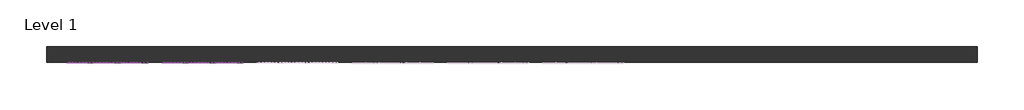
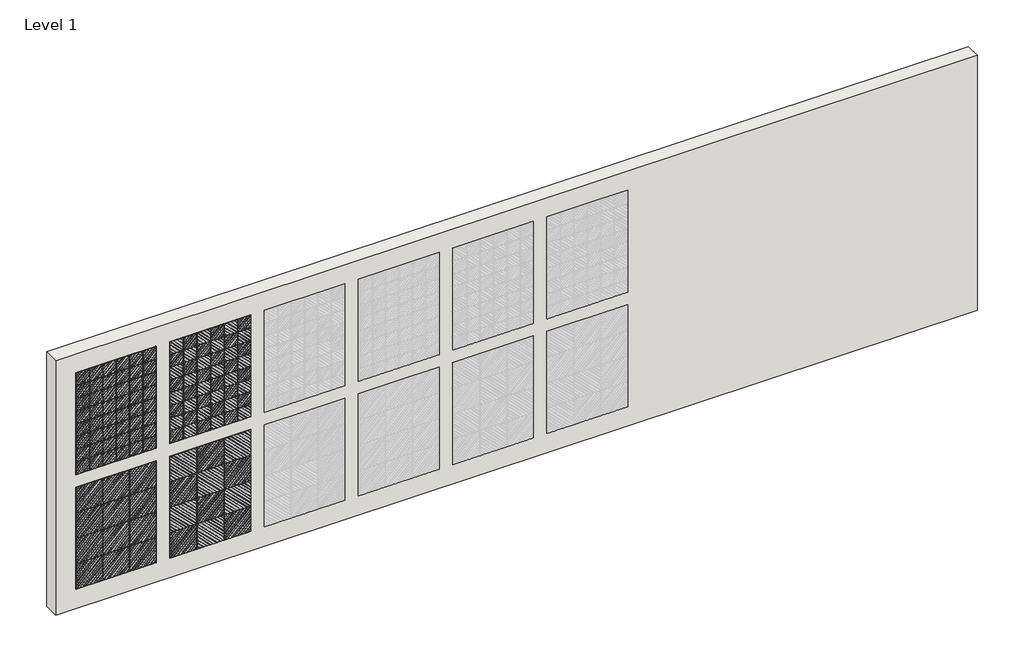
# One storey, part 1 of 3: 120 proxies, 1 wall.
"""IFC4 building model written with IfcOpenShell, lengths in millimetres."""

from ifc_helpers import new_model, si_unit, origin, origin_with_axes, place, context, project, spatial, polyline, outline, extrude, transform, mapped, element, save
from components import maz_1_9_b5213464, maz_1_9_928b4c34, maz_2_9_f5754bbc, maz_2_9_c834c103

model = new_model("IFC4")

# Units and contexts
model_context = context("Model", 3, world=origin())
ifc_project = project(units=[si_unit("LENGTHUNIT", "METRE", prefix="MILLI")], contexts=[model_context])

# Site, building, storey
site = spatial("IfcSite", under=ifc_project)
building = spatial("IfcBuilding", under=site)
storey = spatial("IfcBuildingStorey", under=building, Name="Level 1", Elevation=0.0)

# Proxies
placement = place(None, origin())
maz_1_9_shape = maz_1_9_b5213464(model_context)
element("IfcBuildingElementProxy", 1, Name="Turf_Wall Tile_Maze : MAZ-1-9", ObjectType="Turf_Wall Tile_Maze : MAZ-1-9", at=placement, inside=storey, context=model_context, shape_type="MappedRepresentation", body=[
    mapped(maz_1_9_shape, transform((-799.2969002, 1379.3506904, 3367.9326506), x_axis=(1.0, 0.0, 0.0), y_axis=(0.0, 0.0, 1.0), z_axis=(0.0, -1.0, 0.0))),
])
element("IfcBuildingElementProxy", 2, Name="Turf_Wall Tile_Maze : MAZ-1-9", ObjectType="Turf_Wall Tile_Maze : MAZ-1-9", at=placement, inside=storey, context=model_context, shape_type="MappedRepresentation", body=[
    mapped(maz_1_9_shape, transform((-494.4969002, 1379.3506904, 3367.9326506), x_axis=(1.0, 0.0, 0.0), y_axis=(0.0, 0.0, 1.0), z_axis=(0.0, -1.0, 0.0))),
])
element("IfcBuildingElementProxy", 3, Name="Turf_Wall Tile_Maze : MAZ-1-9", ObjectType="Turf_Wall Tile_Maze : MAZ-1-9", at=placement, inside=storey, context=model_context, shape_type="MappedRepresentation", body=[
    mapped(maz_1_9_shape, transform((419.9030998, 1379.3506904, 3367.9326506), x_axis=(1.0, 0.0, 0.0), y_axis=(0.0, 0.0, 1.0), z_axis=(0.0, -1.0, 0.0))),
])
element("IfcBuildingElementProxy", 4, Name="Turf_Wall Tile_Maze : MAZ-1-9", ObjectType="Turf_Wall Tile_Maze : MAZ-1-9", at=placement, inside=storey, context=model_context, shape_type="MappedRepresentation", body=[
    mapped(maz_1_9_shape, transform((724.7030998, 1379.3506904, 3367.9326506), x_axis=(1.0, 0.0, 0.0), y_axis=(0.0, 0.0, 1.0), z_axis=(0.0, -1.0, 0.0))),
])
element("IfcBuildingElementProxy", 5, Name="Turf_Wall Tile_Maze : MAZ-1-9", ObjectType="Turf_Wall Tile_Maze : MAZ-1-9", at=placement, inside=storey, context=model_context, shape_type="MappedRepresentation", body=[
    mapped(maz_1_9_shape, transform((-189.6969002, 1379.3506904, 3367.9326506), x_axis=(1.0, 0.0, 0.0), y_axis=(0.0, 0.0, 1.0), z_axis=(0.0, -1.0, 0.0))),
])
element("IfcBuildingElementProxy", 6, Name="Turf_Wall Tile_Maze : MAZ-1-9", ObjectType="Turf_Wall Tile_Maze : MAZ-1-9", at=placement, inside=storey, context=model_context, shape_type="MappedRepresentation", body=[
    mapped(maz_1_9_shape, transform((115.1030998, 1379.3506904, 3367.9326506), x_axis=(1.0, 0.0, 0.0), y_axis=(0.0, 0.0, 1.0), z_axis=(0.0, -1.0, 0.0))),
])
element("IfcBuildingElementProxy", 7, Name="Turf_Wall Tile_Maze : MAZ-1-9", ObjectType="Turf_Wall Tile_Maze : MAZ-1-9", at=placement, inside=storey, context=model_context, shape_type="MappedRepresentation", body=[
    mapped(maz_1_9_shape, transform((-799.2969002, 1379.3506904, 3672.7326506), x_axis=(1.0, 0.0, 0.0), y_axis=(0.0, 0.0, 1.0), z_axis=(0.0, -1.0, 0.0))),
])
element("IfcBuildingElementProxy", 8, Name="Turf_Wall Tile_Maze : MAZ-1-9", ObjectType="Turf_Wall Tile_Maze : MAZ-1-9", at=placement, inside=storey, context=model_context, shape_type="MappedRepresentation", body=[
    mapped(maz_1_9_shape, transform((-494.4969002, 1379.3506904, 3672.7326506), x_axis=(1.0, 0.0, 0.0), y_axis=(0.0, 0.0, 1.0), z_axis=(0.0, -1.0, 0.0))),
])
element("IfcBuildingElementProxy", 9, Name="Turf_Wall Tile_Maze : MAZ-1-9", ObjectType="Turf_Wall Tile_Maze : MAZ-1-9", at=placement, inside=storey, context=model_context, shape_type="MappedRepresentation", body=[
    mapped(maz_1_9_shape, transform((419.9030998, 1379.3506904, 3672.7326506), x_axis=(1.0, 0.0, 0.0), y_axis=(0.0, 0.0, 1.0), z_axis=(0.0, -1.0, 0.0))),
])
element("IfcBuildingElementProxy", 10, Name="Turf_Wall Tile_Maze : MAZ-1-9", ObjectType="Turf_Wall Tile_Maze : MAZ-1-9", at=placement, inside=storey, context=model_context, shape_type="MappedRepresentation", body=[
    mapped(maz_1_9_shape, transform((724.7030998, 1379.3506904, 3672.7326506), x_axis=(1.0, 0.0, 0.0), y_axis=(0.0, 0.0, 1.0), z_axis=(0.0, -1.0, 0.0))),
])
element("IfcBuildingElementProxy", 11, Name="Turf_Wall Tile_Maze : MAZ-1-9", ObjectType="Turf_Wall Tile_Maze : MAZ-1-9", at=placement, inside=storey, context=model_context, shape_type="MappedRepresentation", body=[
    mapped(maz_1_9_shape, transform((-189.6969002, 1379.3506904, 3672.7326506), x_axis=(1.0, 0.0, 0.0), y_axis=(0.0, 0.0, 1.0), z_axis=(0.0, -1.0, 0.0))),
])
element("IfcBuildingElementProxy", 12, Name="Turf_Wall Tile_Maze : MAZ-1-9", ObjectType="Turf_Wall Tile_Maze : MAZ-1-9", at=placement, inside=storey, context=model_context, shape_type="MappedRepresentation", body=[
    mapped(maz_1_9_shape, transform((115.1030998, 1379.3506904, 3672.7326506), x_axis=(1.0, 0.0, 0.0), y_axis=(0.0, 0.0, 1.0), z_axis=(0.0, -1.0, 0.0))),
])
element("IfcBuildingElementProxy", 13, Name="Turf_Wall Tile_Maze : MAZ-1-9", ObjectType="Turf_Wall Tile_Maze : MAZ-1-9", at=placement, inside=storey, context=model_context, shape_type="MappedRepresentation", body=[
    mapped(maz_1_9_shape, transform((-799.2969002, 1379.3506904, 3977.5326506), x_axis=(1.0, 0.0, 0.0), y_axis=(0.0, 0.0, 1.0), z_axis=(0.0, -1.0, 0.0))),
])
element("IfcBuildingElementProxy", 14, Name="Turf_Wall Tile_Maze : MAZ-1-9", ObjectType="Turf_Wall Tile_Maze : MAZ-1-9", at=placement, inside=storey, context=model_context, shape_type="MappedRepresentation", body=[
    mapped(maz_1_9_shape, transform((-494.4969002, 1379.3506904, 3977.5326506), x_axis=(1.0, 0.0, 0.0), y_axis=(0.0, 0.0, 1.0), z_axis=(0.0, -1.0, 0.0))),
])
element("IfcBuildingElementProxy", 15, Name="Turf_Wall Tile_Maze : MAZ-1-9", ObjectType="Turf_Wall Tile_Maze : MAZ-1-9", at=placement, inside=storey, context=model_context, shape_type="MappedRepresentation", body=[
    mapped(maz_1_9_shape, transform((419.9030998, 1379.3506904, 3977.5326506), x_axis=(1.0, 0.0, 0.0), y_axis=(0.0, 0.0, 1.0), z_axis=(0.0, -1.0, 0.0))),
])
element("IfcBuildingElementProxy", 16, Name="Turf_Wall Tile_Maze : MAZ-1-9", ObjectType="Turf_Wall Tile_Maze : MAZ-1-9", at=placement, inside=storey, context=model_context, shape_type="MappedRepresentation", body=[
    mapped(maz_1_9_shape, transform((724.7030998, 1379.3506904, 3977.5326506), x_axis=(1.0, 0.0, 0.0), y_axis=(0.0, 0.0, 1.0), z_axis=(0.0, -1.0, 0.0))),
])
element("IfcBuildingElementProxy", 17, Name="Turf_Wall Tile_Maze : MAZ-1-9", ObjectType="Turf_Wall Tile_Maze : MAZ-1-9", at=placement, inside=storey, context=model_context, shape_type="MappedRepresentation", body=[
    mapped(maz_1_9_shape, transform((-189.6969002, 1379.3506904, 3977.5326506), x_axis=(1.0, 0.0, 0.0), y_axis=(0.0, 0.0, 1.0), z_axis=(0.0, -1.0, 0.0))),
])
element("IfcBuildingElementProxy", 18, Name="Turf_Wall Tile_Maze : MAZ-1-9", ObjectType="Turf_Wall Tile_Maze : MAZ-1-9", at=placement, inside=storey, context=model_context, shape_type="MappedRepresentation", body=[
    mapped(maz_1_9_shape, transform((115.1030998, 1379.3506904, 3977.5326506), x_axis=(1.0, 0.0, 0.0), y_axis=(0.0, 0.0, 1.0), z_axis=(0.0, -1.0, 0.0))),
])
element("IfcBuildingElementProxy", 19, Name="Turf_Wall Tile_Maze : MAZ-1-9", ObjectType="Turf_Wall Tile_Maze : MAZ-1-9", at=placement, inside=storey, context=model_context, shape_type="MappedRepresentation", body=[
    mapped(maz_1_9_shape, transform((-799.2969002, 1379.3506904, 4282.3326506), x_axis=(1.0, 0.0, 0.0), y_axis=(0.0, 0.0, 1.0), z_axis=(0.0, -1.0, 0.0))),
])
element("IfcBuildingElementProxy", 20, Name="Turf_Wall Tile_Maze : MAZ-1-9", ObjectType="Turf_Wall Tile_Maze : MAZ-1-9", at=placement, inside=storey, context=model_context, shape_type="MappedRepresentation", body=[
    mapped(maz_1_9_shape, transform((-494.4969002, 1379.3506904, 4282.3326506), x_axis=(1.0, 0.0, 0.0), y_axis=(0.0, 0.0, 1.0), z_axis=(0.0, -1.0, 0.0))),
])
element("IfcBuildingElementProxy", 21, Name="Turf_Wall Tile_Maze : MAZ-1-9", ObjectType="Turf_Wall Tile_Maze : MAZ-1-9", at=placement, inside=storey, context=model_context, shape_type="MappedRepresentation", body=[
    mapped(maz_1_9_shape, transform((419.9030998, 1379.3506904, 4282.3326506), x_axis=(1.0, 0.0, 0.0), y_axis=(0.0, 0.0, 1.0), z_axis=(0.0, -1.0, 0.0))),
])
element("IfcBuildingElementProxy", 22, Name="Turf_Wall Tile_Maze : MAZ-1-9", ObjectType="Turf_Wall Tile_Maze : MAZ-1-9", at=placement, inside=storey, context=model_context, shape_type="MappedRepresentation", body=[
    mapped(maz_1_9_shape, transform((724.7030998, 1379.3506904, 4282.3326506), x_axis=(1.0, 0.0, 0.0), y_axis=(0.0, 0.0, 1.0), z_axis=(0.0, -1.0, 0.0))),
])
element("IfcBuildingElementProxy", 23, Name="Turf_Wall Tile_Maze : MAZ-1-9", ObjectType="Turf_Wall Tile_Maze : MAZ-1-9", at=placement, inside=storey, context=model_context, shape_type="MappedRepresentation", body=[
    mapped(maz_1_9_shape, transform((-189.6969002, 1379.3506904, 4282.3326506), x_axis=(1.0, 0.0, 0.0), y_axis=(0.0, 0.0, 1.0), z_axis=(0.0, -1.0, 0.0))),
])
element("IfcBuildingElementProxy", 24, Name="Turf_Wall Tile_Maze : MAZ-1-9", ObjectType="Turf_Wall Tile_Maze : MAZ-1-9", at=placement, inside=storey, context=model_context, shape_type="MappedRepresentation", body=[
    mapped(maz_1_9_shape, transform((115.1030998, 1379.3506904, 4282.3326506), x_axis=(1.0, 0.0, 0.0), y_axis=(0.0, 0.0, 1.0), z_axis=(0.0, -1.0, 0.0))),
])
element("IfcBuildingElementProxy", 25, Name="Turf_Wall Tile_Maze : MAZ-1-9", ObjectType="Turf_Wall Tile_Maze : MAZ-1-9", at=placement, inside=storey, context=model_context, shape_type="MappedRepresentation", body=[
    mapped(maz_1_9_shape, transform((-799.2969002, 1379.3506904, 4587.1326506), x_axis=(1.0, 0.0, 0.0), y_axis=(0.0, 0.0, 1.0), z_axis=(0.0, -1.0, 0.0))),
])
element("IfcBuildingElementProxy", 26, Name="Turf_Wall Tile_Maze : MAZ-1-9", ObjectType="Turf_Wall Tile_Maze : MAZ-1-9", at=placement, inside=storey, context=model_context, shape_type="MappedRepresentation", body=[
    mapped(maz_1_9_shape, transform((-494.4969002, 1379.3506904, 4587.1326506), x_axis=(1.0, 0.0, 0.0), y_axis=(0.0, 0.0, 1.0), z_axis=(0.0, -1.0, 0.0))),
])
element("IfcBuildingElementProxy", 27, Name="Turf_Wall Tile_Maze : MAZ-1-9", ObjectType="Turf_Wall Tile_Maze : MAZ-1-9", at=placement, inside=storey, context=model_context, shape_type="MappedRepresentation", body=[
    mapped(maz_1_9_shape, transform((419.9030998, 1379.3506904, 4587.1326506), x_axis=(1.0, 0.0, 0.0), y_axis=(0.0, 0.0, 1.0), z_axis=(0.0, -1.0, 0.0))),
])
element("IfcBuildingElementProxy", 28, Name="Turf_Wall Tile_Maze : MAZ-1-9", ObjectType="Turf_Wall Tile_Maze : MAZ-1-9", at=placement, inside=storey, context=model_context, shape_type="MappedRepresentation", body=[
    mapped(maz_1_9_shape, transform((724.7030998, 1379.3506904, 4587.1326506), x_axis=(1.0, 0.0, 0.0), y_axis=(0.0, 0.0, 1.0), z_axis=(0.0, -1.0, 0.0))),
])
element("IfcBuildingElementProxy", 29, Name="Turf_Wall Tile_Maze : MAZ-1-9", ObjectType="Turf_Wall Tile_Maze : MAZ-1-9", at=placement, inside=storey, context=model_context, shape_type="MappedRepresentation", body=[
    mapped(maz_1_9_shape, transform((-189.6969002, 1379.3506904, 4587.1326506), x_axis=(1.0, 0.0, 0.0), y_axis=(0.0, 0.0, 1.0), z_axis=(0.0, -1.0, 0.0))),
])
element("IfcBuildingElementProxy", 30, Name="Turf_Wall Tile_Maze : MAZ-1-9", ObjectType="Turf_Wall Tile_Maze : MAZ-1-9", at=placement, inside=storey, context=model_context, shape_type="MappedRepresentation", body=[
    mapped(maz_1_9_shape, transform((115.1030998, 1379.3506904, 4587.1326506), x_axis=(1.0, 0.0, 0.0), y_axis=(0.0, 0.0, 1.0), z_axis=(0.0, -1.0, 0.0))),
])
element("IfcBuildingElementProxy", 31, Name="Turf_Wall Tile_Maze : MAZ-1-9", ObjectType="Turf_Wall Tile_Maze : MAZ-1-9", at=placement, inside=storey, context=model_context, shape_type="MappedRepresentation", body=[
    mapped(maz_1_9_shape, transform((-799.2969002, 1379.3506904, 4891.9326506), x_axis=(1.0, 0.0, 0.0), y_axis=(0.0, 0.0, 1.0), z_axis=(0.0, -1.0, 0.0))),
])
element("IfcBuildingElementProxy", 32, Name="Turf_Wall Tile_Maze : MAZ-1-9", ObjectType="Turf_Wall Tile_Maze : MAZ-1-9", at=placement, inside=storey, context=model_context, shape_type="MappedRepresentation", body=[
    mapped(maz_1_9_shape, transform((-494.4969002, 1379.3506904, 4891.9326506), x_axis=(1.0, 0.0, 0.0), y_axis=(0.0, 0.0, 1.0), z_axis=(0.0, -1.0, 0.0))),
])
element("IfcBuildingElementProxy", 33, Name="Turf_Wall Tile_Maze : MAZ-1-9", ObjectType="Turf_Wall Tile_Maze : MAZ-1-9", at=placement, inside=storey, context=model_context, shape_type="MappedRepresentation", body=[
    mapped(maz_1_9_shape, transform((419.9030998, 1379.3506904, 4891.9326506), x_axis=(1.0, 0.0, 0.0), y_axis=(0.0, 0.0, 1.0), z_axis=(0.0, -1.0, 0.0))),
])
element("IfcBuildingElementProxy", 34, Name="Turf_Wall Tile_Maze : MAZ-1-9", ObjectType="Turf_Wall Tile_Maze : MAZ-1-9", at=placement, inside=storey, context=model_context, shape_type="MappedRepresentation", body=[
    mapped(maz_1_9_shape, transform((724.7030998, 1379.3506904, 4891.9326506), x_axis=(1.0, 0.0, 0.0), y_axis=(0.0, 0.0, 1.0), z_axis=(0.0, -1.0, 0.0))),
])
element("IfcBuildingElementProxy", 35, Name="Turf_Wall Tile_Maze : MAZ-1-9", ObjectType="Turf_Wall Tile_Maze : MAZ-1-9", at=placement, inside=storey, context=model_context, shape_type="MappedRepresentation", body=[
    mapped(maz_1_9_shape, transform((-189.6969002, 1379.3506904, 4891.9326506), x_axis=(1.0, 0.0, 0.0), y_axis=(0.0, 0.0, 1.0), z_axis=(0.0, -1.0, 0.0))),
])
element("IfcBuildingElementProxy", 36, Name="Turf_Wall Tile_Maze : MAZ-1-9", ObjectType="Turf_Wall Tile_Maze : MAZ-1-9", at=placement, inside=storey, context=model_context, shape_type="MappedRepresentation", body=[
    mapped(maz_1_9_shape, transform((115.1030998, 1379.3506904, 4891.9326506), x_axis=(1.0, 0.0, 0.0), y_axis=(0.0, 0.0, 1.0), z_axis=(0.0, -1.0, 0.0))),
])
element("IfcBuildingElementProxy", 37, Name="Turf_Wall Tile_Maze : MAZ-1-9", ObjectType="Turf_Wall Tile_Maze : MAZ-1-9", at=placement, inside=storey, context=model_context, shape_type="MappedRepresentation", body=[
    mapped(maz_1_9_shape, transform((-799.2969002, 1379.3506904, 5196.7326506), x_axis=(1.0, 0.0, 0.0), y_axis=(0.0, 0.0, 1.0), z_axis=(0.0, -1.0, 0.0))),
])
element("IfcBuildingElementProxy", 38, Name="Turf_Wall Tile_Maze : MAZ-1-9", ObjectType="Turf_Wall Tile_Maze : MAZ-1-9", at=placement, inside=storey, context=model_context, shape_type="MappedRepresentation", body=[
    mapped(maz_1_9_shape, transform((-494.4969002, 1379.3506904, 5196.7326506), x_axis=(1.0, 0.0, 0.0), y_axis=(0.0, 0.0, 1.0), z_axis=(0.0, -1.0, 0.0))),
])
element("IfcBuildingElementProxy", 39, Name="Turf_Wall Tile_Maze : MAZ-1-9", ObjectType="Turf_Wall Tile_Maze : MAZ-1-9", at=placement, inside=storey, context=model_context, shape_type="MappedRepresentation", body=[
    mapped(maz_1_9_shape, transform((419.9030998, 1379.3506904, 5196.7326506), x_axis=(1.0, 0.0, 0.0), y_axis=(0.0, 0.0, 1.0), z_axis=(0.0, -1.0, 0.0))),
])
element("IfcBuildingElementProxy", 40, Name="Turf_Wall Tile_Maze : MAZ-1-9", ObjectType="Turf_Wall Tile_Maze : MAZ-1-9", at=placement, inside=storey, context=model_context, shape_type="MappedRepresentation", body=[
    mapped(maz_1_9_shape, transform((724.7030998, 1379.3506904, 5196.7326506), x_axis=(1.0, 0.0, 0.0), y_axis=(0.0, 0.0, 1.0), z_axis=(0.0, -1.0, 0.0))),
])
element("IfcBuildingElementProxy", 41, Name="Turf_Wall Tile_Maze : MAZ-1-9", ObjectType="Turf_Wall Tile_Maze : MAZ-1-9", at=placement, inside=storey, context=model_context, shape_type="MappedRepresentation", body=[
    mapped(maz_1_9_shape, transform((-189.6969002, 1379.3506904, 5196.7326506), x_axis=(1.0, 0.0, 0.0), y_axis=(0.0, 0.0, 1.0), z_axis=(0.0, -1.0, 0.0))),
])
element("IfcBuildingElementProxy", 42, Name="Turf_Wall Tile_Maze : MAZ-1-9", ObjectType="Turf_Wall Tile_Maze : MAZ-1-9", at=placement, inside=storey, context=model_context, shape_type="MappedRepresentation", body=[
    mapped(maz_1_9_shape, transform((115.1030998, 1379.3506904, 5196.7326506), x_axis=(1.0, 0.0, 0.0), y_axis=(0.0, 0.0, 1.0), z_axis=(0.0, -1.0, 0.0))),
])
element("IfcBuildingElementProxy", 43, Name="Turf_Wall Tile_Maze : MAZ-1-9", ObjectType="Turf_Wall Tile_Maze : MAZ-1-9", at=placement, inside=storey, context=model_context, shape_type="MappedRepresentation", body=[
    mapped(maz_1_9_shape, transform((-799.2969002, 1379.3506904, 5501.5326506), x_axis=(1.0, 0.0, 0.0), y_axis=(0.0, 0.0, 1.0), z_axis=(0.0, -1.0, 0.0))),
])
element("IfcBuildingElementProxy", 44, Name="Turf_Wall Tile_Maze : MAZ-1-9", ObjectType="Turf_Wall Tile_Maze : MAZ-1-9", at=placement, inside=storey, context=model_context, shape_type="MappedRepresentation", body=[
    mapped(maz_1_9_shape, transform((-494.4969002, 1379.3506904, 5501.5326506), x_axis=(1.0, 0.0, 0.0), y_axis=(0.0, 0.0, 1.0), z_axis=(0.0, -1.0, 0.0))),
])
element("IfcBuildingElementProxy", 45, Name="Turf_Wall Tile_Maze : MAZ-1-9", ObjectType="Turf_Wall Tile_Maze : MAZ-1-9", at=placement, inside=storey, context=model_context, shape_type="MappedRepresentation", body=[
    mapped(maz_1_9_shape, transform((419.9030998, 1379.3506904, 5501.5326506), x_axis=(1.0, 0.0, 0.0), y_axis=(0.0, 0.0, 1.0), z_axis=(0.0, -1.0, 0.0))),
])
element("IfcBuildingElementProxy", 46, Name="Turf_Wall Tile_Maze : MAZ-1-9", ObjectType="Turf_Wall Tile_Maze : MAZ-1-9", at=placement, inside=storey, context=model_context, shape_type="MappedRepresentation", body=[
    mapped(maz_1_9_shape, transform((724.7030998, 1379.3506904, 5501.5326506), x_axis=(1.0, 0.0, 0.0), y_axis=(0.0, 0.0, 1.0), z_axis=(0.0, -1.0, 0.0))),
])
element("IfcBuildingElementProxy", 47, Name="Turf_Wall Tile_Maze : MAZ-1-9", ObjectType="Turf_Wall Tile_Maze : MAZ-1-9", at=placement, inside=storey, context=model_context, shape_type="MappedRepresentation", body=[
    mapped(maz_1_9_shape, transform((-189.6969002, 1379.3506904, 5501.5326506), x_axis=(1.0, 0.0, 0.0), y_axis=(0.0, 0.0, 1.0), z_axis=(0.0, -1.0, 0.0))),
])
element("IfcBuildingElementProxy", 48, Name="Turf_Wall Tile_Maze : MAZ-1-9", ObjectType="Turf_Wall Tile_Maze : MAZ-1-9", at=placement, inside=storey, context=model_context, shape_type="MappedRepresentation", body=[
    mapped(maz_1_9_shape, transform((115.1030998, 1379.3506904, 5501.5326506), x_axis=(1.0, 0.0, 0.0), y_axis=(0.0, 0.0, 1.0), z_axis=(0.0, -1.0, 0.0))),
])
element("IfcBuildingElementProxy", 49, Name="Turf_Wall Tile_Maze : MAZ-1-9", ObjectType="Turf_Wall Tile_Maze : MAZ-1-9", at=placement, inside=storey, context=model_context, shape_type="MappedRepresentation", body=[
    mapped(maz_1_9_shape, transform((1639.1030998, 1379.3506904, 5501.5326506), x_axis=(1.0, 0.0, 0.0), y_axis=(0.0, 0.0, 1.0), z_axis=(0.0, -1.0, 0.0))),
])
element("IfcBuildingElementProxy", 50, Name="Turf_Wall Tile_Maze : MAZ-1-9", ObjectType="Turf_Wall Tile_Maze : MAZ-1-9", at=placement, inside=storey, context=model_context, shape_type="MappedRepresentation", body=[
    mapped(maz_1_9_shape, transform((1943.9030998, 1379.3506904, 5501.5326506), x_axis=(0.0, 0.0, 1.0), y_axis=(-1.0, 0.0, 0.0), z_axis=(0.0, -1.0, 0.0))),
])
element("IfcBuildingElementProxy", 51, Name="Turf_Wall Tile_Maze : MAZ-1-9", ObjectType="Turf_Wall Tile_Maze : MAZ-1-9", at=placement, inside=storey, context=model_context, shape_type="MappedRepresentation", body=[
    mapped(maz_1_9_shape, transform((2858.3030998, 1379.3506904, 5501.5326506), x_axis=(1.0, 0.0, 0.0), y_axis=(0.0, 0.0, 1.0), z_axis=(0.0, -1.0, 0.0))),
])
element("IfcBuildingElementProxy", 52, Name="Turf_Wall Tile_Maze : MAZ-1-9", ObjectType="Turf_Wall Tile_Maze : MAZ-1-9", at=placement, inside=storey, context=model_context, shape_type="MappedRepresentation", body=[
    mapped(maz_1_9_shape, transform((1334.3030998, 1379.3506904, 5501.5326506), x_axis=(0.0, 0.0, 1.0), y_axis=(-1.0, 0.0, 0.0), z_axis=(0.0, -1.0, 0.0))),
])
element("IfcBuildingElementProxy", 53, Name="Turf_Wall Tile_Maze : MAZ-1-9", ObjectType="Turf_Wall Tile_Maze : MAZ-1-9", at=placement, inside=storey, context=model_context, shape_type="MappedRepresentation", body=[
    mapped(maz_1_9_shape, transform((2248.7030998, 1379.3506904, 5501.5326506), x_axis=(1.0, 0.0, 0.0), y_axis=(0.0, 0.0, 1.0), z_axis=(0.0, -1.0, 0.0))),
])
element("IfcBuildingElementProxy", 54, Name="Turf_Wall Tile_Maze : MAZ-1-9", ObjectType="Turf_Wall Tile_Maze : MAZ-1-9", at=placement, inside=storey, context=model_context, shape_type="MappedRepresentation", body=[
    mapped(maz_1_9_shape, transform((2553.5030998, 1379.3506904, 5501.5326506), x_axis=(0.0, 0.0, 1.0), y_axis=(-1.0, 0.0, 0.0), z_axis=(0.0, -1.0, 0.0))),
])
element("IfcBuildingElementProxy", 55, Name="Turf_Wall Tile_Maze : MAZ-1-9", ObjectType="Turf_Wall Tile_Maze : MAZ-1-9", at=placement, inside=storey, context=model_context, shape_type="MappedRepresentation", body=[
    mapped(maz_1_9_shape, transform((1639.1030998, 1379.3506904, 4891.9326506), x_axis=(1.0, 0.0, 0.0), y_axis=(0.0, 0.0, 1.0), z_axis=(0.0, -1.0, 0.0))),
])
element("IfcBuildingElementProxy", 56, Name="Turf_Wall Tile_Maze : MAZ-1-9", ObjectType="Turf_Wall Tile_Maze : MAZ-1-9", at=placement, inside=storey, context=model_context, shape_type="MappedRepresentation", body=[
    mapped(maz_1_9_shape, transform((1943.9030998, 1379.3506904, 4891.9326506), x_axis=(0.0, 0.0, 1.0), y_axis=(-1.0, 0.0, 0.0), z_axis=(0.0, -1.0, 0.0))),
])
element("IfcBuildingElementProxy", 57, Name="Turf_Wall Tile_Maze : MAZ-1-9", ObjectType="Turf_Wall Tile_Maze : MAZ-1-9", at=placement, inside=storey, context=model_context, shape_type="MappedRepresentation", body=[
    mapped(maz_1_9_shape, transform((2858.3030998, 1379.3506904, 4891.9326506), x_axis=(1.0, 0.0, 0.0), y_axis=(0.0, 0.0, 1.0), z_axis=(0.0, -1.0, 0.0))),
])
element("IfcBuildingElementProxy", 58, Name="Turf_Wall Tile_Maze : MAZ-1-9", ObjectType="Turf_Wall Tile_Maze : MAZ-1-9", at=placement, inside=storey, context=model_context, shape_type="MappedRepresentation", body=[
    mapped(maz_1_9_shape, transform((1334.3030998, 1379.3506904, 4891.9326506), x_axis=(0.0, 0.0, 1.0), y_axis=(-1.0, 0.0, 0.0), z_axis=(0.0, -1.0, 0.0))),
])
element("IfcBuildingElementProxy", 59, Name="Turf_Wall Tile_Maze : MAZ-1-9", ObjectType="Turf_Wall Tile_Maze : MAZ-1-9", at=placement, inside=storey, context=model_context, shape_type="MappedRepresentation", body=[
    mapped(maz_1_9_shape, transform((2248.7030998, 1379.3506904, 4891.9326506), x_axis=(1.0, 0.0, 0.0), y_axis=(0.0, 0.0, 1.0), z_axis=(0.0, -1.0, 0.0))),
])
element("IfcBuildingElementProxy", 60, Name="Turf_Wall Tile_Maze : MAZ-1-9", ObjectType="Turf_Wall Tile_Maze : MAZ-1-9", at=placement, inside=storey, context=model_context, shape_type="MappedRepresentation", body=[
    mapped(maz_1_9_shape, transform((2553.5030998, 1379.3506904, 4891.9326506), x_axis=(0.0, 0.0, 1.0), y_axis=(-1.0, 0.0, 0.0), z_axis=(0.0, -1.0, 0.0))),
])
element("IfcBuildingElementProxy", 61, Name="Turf_Wall Tile_Maze : MAZ-1-9", ObjectType="Turf_Wall Tile_Maze : MAZ-1-9", at=placement, inside=storey, context=model_context, shape_type="MappedRepresentation", body=[
    mapped(maz_1_9_shape, transform((1639.1030998, 1379.3506904, 4282.3326506), x_axis=(1.0, 0.0, 0.0), y_axis=(0.0, 0.0, 1.0), z_axis=(0.0, -1.0, 0.0))),
])
element("IfcBuildingElementProxy", 62, Name="Turf_Wall Tile_Maze : MAZ-1-9", ObjectType="Turf_Wall Tile_Maze : MAZ-1-9", at=placement, inside=storey, context=model_context, shape_type="MappedRepresentation", body=[
    mapped(maz_1_9_shape, transform((1943.9030998, 1379.3506904, 4282.3326506), x_axis=(0.0, 0.0, 1.0), y_axis=(-1.0, 0.0, 0.0), z_axis=(0.0, -1.0, 0.0))),
])
element("IfcBuildingElementProxy", 63, Name="Turf_Wall Tile_Maze : MAZ-1-9", ObjectType="Turf_Wall Tile_Maze : MAZ-1-9", at=placement, inside=storey, context=model_context, shape_type="MappedRepresentation", body=[
    mapped(maz_1_9_shape, transform((2858.3030998, 1379.3506904, 4282.3326506), x_axis=(1.0, 0.0, 0.0), y_axis=(0.0, 0.0, 1.0), z_axis=(0.0, -1.0, 0.0))),
])
element("IfcBuildingElementProxy", 64, Name="Turf_Wall Tile_Maze : MAZ-1-9", ObjectType="Turf_Wall Tile_Maze : MAZ-1-9", at=placement, inside=storey, context=model_context, shape_type="MappedRepresentation", body=[
    mapped(maz_1_9_shape, transform((1334.3030998, 1379.3506904, 4282.3326506), x_axis=(0.0, 0.0, 1.0), y_axis=(-1.0, 0.0, 0.0), z_axis=(0.0, -1.0, 0.0))),
])
element("IfcBuildingElementProxy", 65, Name="Turf_Wall Tile_Maze : MAZ-1-9", ObjectType="Turf_Wall Tile_Maze : MAZ-1-9", at=placement, inside=storey, context=model_context, shape_type="MappedRepresentation", body=[
    mapped(maz_1_9_shape, transform((2248.7030998, 1379.3506904, 4282.3326506), x_axis=(1.0, 0.0, 0.0), y_axis=(0.0, 0.0, 1.0), z_axis=(0.0, -1.0, 0.0))),
])
element("IfcBuildingElementProxy", 66, Name="Turf_Wall Tile_Maze : MAZ-1-9", ObjectType="Turf_Wall Tile_Maze : MAZ-1-9", at=placement, inside=storey, context=model_context, shape_type="MappedRepresentation", body=[
    mapped(maz_1_9_shape, transform((2553.5030998, 1379.3506904, 4282.3326506), x_axis=(0.0, 0.0, 1.0), y_axis=(-1.0, 0.0, 0.0), z_axis=(0.0, -1.0, 0.0))),
])
element("IfcBuildingElementProxy", 67, Name="Turf_Wall Tile_Maze : MAZ-1-9", ObjectType="Turf_Wall Tile_Maze : MAZ-1-9", at=placement, inside=storey, context=model_context, shape_type="MappedRepresentation", body=[
    mapped(maz_1_9_shape, transform((1639.1030998, 1379.3506904, 3672.7326506), x_axis=(1.0, 0.0, 0.0), y_axis=(0.0, 0.0, 1.0), z_axis=(0.0, -1.0, 0.0))),
])
element("IfcBuildingElementProxy", 68, Name="Turf_Wall Tile_Maze : MAZ-1-9", ObjectType="Turf_Wall Tile_Maze : MAZ-1-9", at=placement, inside=storey, context=model_context, shape_type="MappedRepresentation", body=[
    mapped(maz_1_9_shape, transform((1943.9030998, 1379.3506904, 3672.7326506), x_axis=(0.0, 0.0, 1.0), y_axis=(-1.0, 0.0, 0.0), z_axis=(0.0, -1.0, 0.0))),
])
element("IfcBuildingElementProxy", 69, Name="Turf_Wall Tile_Maze : MAZ-1-9", ObjectType="Turf_Wall Tile_Maze : MAZ-1-9", at=placement, inside=storey, context=model_context, shape_type="MappedRepresentation", body=[
    mapped(maz_1_9_shape, transform((2858.3030998, 1379.3506904, 3672.7326506), x_axis=(1.0, 0.0, 0.0), y_axis=(0.0, 0.0, 1.0), z_axis=(0.0, -1.0, 0.0))),
])
element("IfcBuildingElementProxy", 70, Name="Turf_Wall Tile_Maze : MAZ-1-9", ObjectType="Turf_Wall Tile_Maze : MAZ-1-9", at=placement, inside=storey, context=model_context, shape_type="MappedRepresentation", body=[
    mapped(maz_1_9_shape, transform((1334.3030998, 1379.3506904, 3672.7326506), x_axis=(0.0, 0.0, 1.0), y_axis=(-1.0, 0.0, 0.0), z_axis=(0.0, -1.0, 0.0))),
])
element("IfcBuildingElementProxy", 71, Name="Turf_Wall Tile_Maze : MAZ-1-9", ObjectType="Turf_Wall Tile_Maze : MAZ-1-9", at=placement, inside=storey, context=model_context, shape_type="MappedRepresentation", body=[
    mapped(maz_1_9_shape, transform((2248.7030998, 1379.3506904, 3672.7326506), x_axis=(1.0, 0.0, 0.0), y_axis=(0.0, 0.0, 1.0), z_axis=(0.0, -1.0, 0.0))),
])
element("IfcBuildingElementProxy", 72, Name="Turf_Wall Tile_Maze : MAZ-1-9", ObjectType="Turf_Wall Tile_Maze : MAZ-1-9", at=placement, inside=storey, context=model_context, shape_type="MappedRepresentation", body=[
    mapped(maz_1_9_shape, transform((2553.5030998, 1379.3506904, 3672.7326506), x_axis=(0.0, 0.0, 1.0), y_axis=(-1.0, 0.0, 0.0), z_axis=(0.0, -1.0, 0.0))),
])
maz_1_9_2_shape = maz_1_9_928b4c34(model_context)
element("IfcBuildingElementProxy", 73, Name="Turf_Wall Tile_Maze : MAZ-1-9", ObjectType="Turf_Wall Tile_Maze : MAZ-1-9", at=placement, inside=storey, context=model_context, shape_type="MappedRepresentation", body=[
    mapped(maz_1_9_2_shape, transform((1639.1030998, 1379.3506904, 5196.7326506), x_axis=(1.0, 0.0, 0.0), y_axis=(0.0, 0.0, 1.0), z_axis=(0.0, -1.0, 0.0))),
])
element("IfcBuildingElementProxy", 74, Name="Turf_Wall Tile_Maze : MAZ-1-9", ObjectType="Turf_Wall Tile_Maze : MAZ-1-9", at=placement, inside=storey, context=model_context, shape_type="MappedRepresentation", body=[
    mapped(maz_1_9_2_shape, transform((1943.9030998, 1379.3506904, 5196.7326506), x_axis=(0.0, 0.0, -1.0), y_axis=(1.0, 0.0, 0.0), z_axis=(0.0, -1.0, 0.0))),
])
element("IfcBuildingElementProxy", 75, Name="Turf_Wall Tile_Maze : MAZ-1-9", ObjectType="Turf_Wall Tile_Maze : MAZ-1-9", at=placement, inside=storey, context=model_context, shape_type="MappedRepresentation", body=[
    mapped(maz_1_9_2_shape, transform((2858.3030998, 1379.3506904, 5196.7326506), x_axis=(1.0, 0.0, 0.0), y_axis=(0.0, 0.0, 1.0), z_axis=(0.0, -1.0, 0.0))),
])
element("IfcBuildingElementProxy", 76, Name="Turf_Wall Tile_Maze : MAZ-1-9", ObjectType="Turf_Wall Tile_Maze : MAZ-1-9", at=placement, inside=storey, context=model_context, shape_type="MappedRepresentation", body=[
    mapped(maz_1_9_2_shape, transform((1334.3030998, 1379.3506904, 5196.7326506), x_axis=(0.0, 0.0, -1.0), y_axis=(1.0, 0.0, 0.0), z_axis=(0.0, -1.0, 0.0))),
])
element("IfcBuildingElementProxy", 77, Name="Turf_Wall Tile_Maze : MAZ-1-9", ObjectType="Turf_Wall Tile_Maze : MAZ-1-9", at=placement, inside=storey, context=model_context, shape_type="MappedRepresentation", body=[
    mapped(maz_1_9_2_shape, transform((2248.7030998, 1379.3506904, 5196.7326506), x_axis=(1.0, 0.0, 0.0), y_axis=(0.0, 0.0, 1.0), z_axis=(0.0, -1.0, 0.0))),
])
element("IfcBuildingElementProxy", 78, Name="Turf_Wall Tile_Maze : MAZ-1-9", ObjectType="Turf_Wall Tile_Maze : MAZ-1-9", at=placement, inside=storey, context=model_context, shape_type="MappedRepresentation", body=[
    mapped(maz_1_9_2_shape, transform((2553.5030998, 1379.3506904, 5196.7326506), x_axis=(0.0, 0.0, -1.0), y_axis=(1.0, 0.0, 0.0), z_axis=(0.0, -1.0, 0.0))),
])
element("IfcBuildingElementProxy", 79, Name="Turf_Wall Tile_Maze : MAZ-1-9", ObjectType="Turf_Wall Tile_Maze : MAZ-1-9", at=placement, inside=storey, context=model_context, shape_type="MappedRepresentation", body=[
    mapped(maz_1_9_2_shape, transform((1639.1030998, 1379.3506904, 4587.1326506), x_axis=(1.0, 0.0, 0.0), y_axis=(0.0, 0.0, 1.0), z_axis=(0.0, -1.0, 0.0))),
])
element("IfcBuildingElementProxy", 80, Name="Turf_Wall Tile_Maze : MAZ-1-9", ObjectType="Turf_Wall Tile_Maze : MAZ-1-9", at=placement, inside=storey, context=model_context, shape_type="MappedRepresentation", body=[
    mapped(maz_1_9_2_shape, transform((1943.9030998, 1379.3506904, 4587.1326506), x_axis=(0.0, 0.0, -1.0), y_axis=(1.0, 0.0, 0.0), z_axis=(0.0, -1.0, 0.0))),
])
element("IfcBuildingElementProxy", 81, Name="Turf_Wall Tile_Maze : MAZ-1-9", ObjectType="Turf_Wall Tile_Maze : MAZ-1-9", at=placement, inside=storey, context=model_context, shape_type="MappedRepresentation", body=[
    mapped(maz_1_9_2_shape, transform((2858.3030998, 1379.3506904, 4587.1326506), x_axis=(1.0, 0.0, 0.0), y_axis=(0.0, 0.0, 1.0), z_axis=(0.0, -1.0, 0.0))),
])
element("IfcBuildingElementProxy", 82, Name="Turf_Wall Tile_Maze : MAZ-1-9", ObjectType="Turf_Wall Tile_Maze : MAZ-1-9", at=placement, inside=storey, context=model_context, shape_type="MappedRepresentation", body=[
    mapped(maz_1_9_2_shape, transform((1334.3030998, 1379.3506904, 4587.1326506), x_axis=(0.0, 0.0, -1.0), y_axis=(1.0, 0.0, 0.0), z_axis=(0.0, -1.0, 0.0))),
])
element("IfcBuildingElementProxy", 83, Name="Turf_Wall Tile_Maze : MAZ-1-9", ObjectType="Turf_Wall Tile_Maze : MAZ-1-9", at=placement, inside=storey, context=model_context, shape_type="MappedRepresentation", body=[
    mapped(maz_1_9_2_shape, transform((2248.7030998, 1379.3506904, 4587.1326506), x_axis=(1.0, 0.0, 0.0), y_axis=(0.0, 0.0, 1.0), z_axis=(0.0, -1.0, 0.0))),
])
element("IfcBuildingElementProxy", 84, Name="Turf_Wall Tile_Maze : MAZ-1-9", ObjectType="Turf_Wall Tile_Maze : MAZ-1-9", at=placement, inside=storey, context=model_context, shape_type="MappedRepresentation", body=[
    mapped(maz_1_9_2_shape, transform((2553.5030998, 1379.3506904, 4587.1326506), x_axis=(0.0, 0.0, -1.0), y_axis=(1.0, 0.0, 0.0), z_axis=(0.0, -1.0, 0.0))),
])
element("IfcBuildingElementProxy", 85, Name="Turf_Wall Tile_Maze : MAZ-1-9", ObjectType="Turf_Wall Tile_Maze : MAZ-1-9", at=placement, inside=storey, context=model_context, shape_type="MappedRepresentation", body=[
    mapped(maz_1_9_2_shape, transform((1639.1030998, 1379.3506904, 3977.5326506), x_axis=(1.0, 0.0, 0.0), y_axis=(0.0, 0.0, 1.0), z_axis=(0.0, -1.0, 0.0))),
])
element("IfcBuildingElementProxy", 86, Name="Turf_Wall Tile_Maze : MAZ-1-9", ObjectType="Turf_Wall Tile_Maze : MAZ-1-9", at=placement, inside=storey, context=model_context, shape_type="MappedRepresentation", body=[
    mapped(maz_1_9_2_shape, transform((1943.9030998, 1379.3506904, 3977.5326506), x_axis=(0.0, 0.0, -1.0), y_axis=(1.0, 0.0, 0.0), z_axis=(0.0, -1.0, 0.0))),
])
element("IfcBuildingElementProxy", 87, Name="Turf_Wall Tile_Maze : MAZ-1-9", ObjectType="Turf_Wall Tile_Maze : MAZ-1-9", at=placement, inside=storey, context=model_context, shape_type="MappedRepresentation", body=[
    mapped(maz_1_9_2_shape, transform((2858.3030998, 1379.3506904, 3977.5326506), x_axis=(1.0, 0.0, 0.0), y_axis=(0.0, 0.0, 1.0), z_axis=(0.0, -1.0, 0.0))),
])
element("IfcBuildingElementProxy", 88, Name="Turf_Wall Tile_Maze : MAZ-1-9", ObjectType="Turf_Wall Tile_Maze : MAZ-1-9", at=placement, inside=storey, context=model_context, shape_type="MappedRepresentation", body=[
    mapped(maz_1_9_2_shape, transform((1334.3030998, 1379.3506904, 3977.5326506), x_axis=(0.0, 0.0, -1.0), y_axis=(1.0, 0.0, 0.0), z_axis=(0.0, -1.0, 0.0))),
])
element("IfcBuildingElementProxy", 89, Name="Turf_Wall Tile_Maze : MAZ-1-9", ObjectType="Turf_Wall Tile_Maze : MAZ-1-9", at=placement, inside=storey, context=model_context, shape_type="MappedRepresentation", body=[
    mapped(maz_1_9_2_shape, transform((2248.7030998, 1379.3506904, 3977.5326506), x_axis=(1.0, 0.0, 0.0), y_axis=(0.0, 0.0, 1.0), z_axis=(0.0, -1.0, 0.0))),
])
element("IfcBuildingElementProxy", 90, Name="Turf_Wall Tile_Maze : MAZ-1-9", ObjectType="Turf_Wall Tile_Maze : MAZ-1-9", at=placement, inside=storey, context=model_context, shape_type="MappedRepresentation", body=[
    mapped(maz_1_9_2_shape, transform((2553.5030998, 1379.3506904, 3977.5326506), x_axis=(0.0, 0.0, -1.0), y_axis=(1.0, 0.0, 0.0), z_axis=(0.0, -1.0, 0.0))),
])
element("IfcBuildingElementProxy", 91, Name="Turf_Wall Tile_Maze : MAZ-1-9", ObjectType="Turf_Wall Tile_Maze : MAZ-1-9", at=placement, inside=storey, context=model_context, shape_type="MappedRepresentation", body=[
    mapped(maz_1_9_2_shape, transform((1639.1030998, 1379.3506904, 3367.9326506), x_axis=(1.0, 0.0, 0.0), y_axis=(0.0, 0.0, 1.0), z_axis=(0.0, -1.0, 0.0))),
])
element("IfcBuildingElementProxy", 92, Name="Turf_Wall Tile_Maze : MAZ-1-9", ObjectType="Turf_Wall Tile_Maze : MAZ-1-9", at=placement, inside=storey, context=model_context, shape_type="MappedRepresentation", body=[
    mapped(maz_1_9_2_shape, transform((1943.9030998, 1379.3506904, 3367.9326506), x_axis=(0.0, 0.0, -1.0), y_axis=(1.0, 0.0, 0.0), z_axis=(0.0, -1.0, 0.0))),
])
element("IfcBuildingElementProxy", 93, Name="Turf_Wall Tile_Maze : MAZ-1-9", ObjectType="Turf_Wall Tile_Maze : MAZ-1-9", at=placement, inside=storey, context=model_context, shape_type="MappedRepresentation", body=[
    mapped(maz_1_9_2_shape, transform((2858.3030998, 1379.3506904, 3367.9326506), x_axis=(1.0, 0.0, 0.0), y_axis=(0.0, 0.0, 1.0), z_axis=(0.0, -1.0, 0.0))),
])
element("IfcBuildingElementProxy", 94, Name="Turf_Wall Tile_Maze : MAZ-1-9", ObjectType="Turf_Wall Tile_Maze : MAZ-1-9", at=placement, inside=storey, context=model_context, shape_type="MappedRepresentation", body=[
    mapped(maz_1_9_2_shape, transform((1334.3030998, 1379.3506904, 3367.9326506), x_axis=(0.0, 0.0, -1.0), y_axis=(1.0, 0.0, 0.0), z_axis=(0.0, -1.0, 0.0))),
])
element("IfcBuildingElementProxy", 95, Name="Turf_Wall Tile_Maze : MAZ-1-9", ObjectType="Turf_Wall Tile_Maze : MAZ-1-9", at=placement, inside=storey, context=model_context, shape_type="MappedRepresentation", body=[
    mapped(maz_1_9_2_shape, transform((2248.7030998, 1379.3506904, 3367.9326506), x_axis=(1.0, 0.0, 0.0), y_axis=(0.0, 0.0, 1.0), z_axis=(0.0, -1.0, 0.0))),
])
element("IfcBuildingElementProxy", 96, Name="Turf_Wall Tile_Maze : MAZ-1-9", ObjectType="Turf_Wall Tile_Maze : MAZ-1-9", at=placement, inside=storey, context=model_context, shape_type="MappedRepresentation", body=[
    mapped(maz_1_9_2_shape, transform((2553.5030998, 1379.3506904, 3367.9326506), x_axis=(0.0, 0.0, -1.0), y_axis=(1.0, 0.0, 0.0), z_axis=(0.0, -1.0, 0.0))),
])
maz_2_9_shape = maz_2_9_f5754bbc(model_context)
element("IfcBuildingElementProxy", 97, Name="Turf_Wall Tile_Maze : MAZ-2-9", ObjectType="Turf_Wall Tile_Maze : MAZ-2-9", at=placement, inside=storey, context=model_context, shape_type="MappedRepresentation", body=[
    mapped(maz_2_9_shape, transform((-646.8941117, 1379.3506904, 777.132711), x_axis=(1.0, 0.0, 0.0), y_axis=(0.0, 0.0, 1.0), z_axis=(0.0, -1.0, 0.0))),
])
element("IfcBuildingElementProxy", 98, Name="Turf_Wall Tile_Maze : MAZ-2-9", ObjectType="Turf_Wall Tile_Maze : MAZ-2-9", at=placement, inside=storey, context=model_context, shape_type="MappedRepresentation", body=[
    mapped(maz_2_9_shape, transform((-37.2941117, 1379.3506904, 777.132711), x_axis=(1.0, 0.0, 0.0), y_axis=(0.0, 0.0, 1.0), z_axis=(0.0, -1.0, 0.0))),
])
element("IfcBuildingElementProxy", 99, Name="Turf_Wall Tile_Maze : MAZ-2-9", ObjectType="Turf_Wall Tile_Maze : MAZ-2-9", at=placement, inside=storey, context=model_context, shape_type="MappedRepresentation", body=[
    mapped(maz_2_9_shape, transform((572.3058883, 1379.3506904, 777.132711), x_axis=(1.0, 0.0, 0.0), y_axis=(0.0, 0.0, 1.0), z_axis=(0.0, -1.0, 0.0))),
])
element("IfcBuildingElementProxy", 100, Name="Turf_Wall Tile_Maze : MAZ-2-9", ObjectType="Turf_Wall Tile_Maze : MAZ-2-9", at=placement, inside=storey, context=model_context, shape_type="MappedRepresentation", body=[
    mapped(maz_2_9_shape, transform((-646.8941117, 1379.3506904, 1386.732711), x_axis=(1.0, 0.0, 0.0), y_axis=(0.0, 0.0, 1.0), z_axis=(0.0, -1.0, 0.0))),
])
element("IfcBuildingElementProxy", 101, Name="Turf_Wall Tile_Maze : MAZ-2-9", ObjectType="Turf_Wall Tile_Maze : MAZ-2-9", at=placement, inside=storey, context=model_context, shape_type="MappedRepresentation", body=[
    mapped(maz_2_9_shape, transform((-37.2941117, 1379.3506904, 1386.732711), x_axis=(1.0, 0.0, 0.0), y_axis=(0.0, 0.0, 1.0), z_axis=(0.0, -1.0, 0.0))),
])
element("IfcBuildingElementProxy", 102, Name="Turf_Wall Tile_Maze : MAZ-2-9", ObjectType="Turf_Wall Tile_Maze : MAZ-2-9", at=placement, inside=storey, context=model_context, shape_type="MappedRepresentation", body=[
    mapped(maz_2_9_shape, transform((572.3058883, 1379.3506904, 1386.732711), x_axis=(1.0, 0.0, 0.0), y_axis=(0.0, 0.0, 1.0), z_axis=(0.0, -1.0, 0.0))),
])
element("IfcBuildingElementProxy", 103, Name="Turf_Wall Tile_Maze : MAZ-2-9", ObjectType="Turf_Wall Tile_Maze : MAZ-2-9", at=placement, inside=storey, context=model_context, shape_type="MappedRepresentation", body=[
    mapped(maz_2_9_shape, transform((-646.8941117, 1379.3506904, 1996.332711), x_axis=(1.0, 0.0, 0.0), y_axis=(0.0, 0.0, 1.0), z_axis=(0.0, -1.0, 0.0))),
])
element("IfcBuildingElementProxy", 104, Name="Turf_Wall Tile_Maze : MAZ-2-9", ObjectType="Turf_Wall Tile_Maze : MAZ-2-9", at=placement, inside=storey, context=model_context, shape_type="MappedRepresentation", body=[
    mapped(maz_2_9_shape, transform((-37.2941117, 1379.3506904, 1996.332711), x_axis=(1.0, 0.0, 0.0), y_axis=(0.0, 0.0, 1.0), z_axis=(0.0, -1.0, 0.0))),
])
element("IfcBuildingElementProxy", 105, Name="Turf_Wall Tile_Maze : MAZ-2-9", ObjectType="Turf_Wall Tile_Maze : MAZ-2-9", at=placement, inside=storey, context=model_context, shape_type="MappedRepresentation", body=[
    mapped(maz_2_9_shape, transform((572.3058883, 1379.3506904, 1996.332711), x_axis=(1.0, 0.0, 0.0), y_axis=(0.0, 0.0, 1.0), z_axis=(0.0, -1.0, 0.0))),
])
element("IfcBuildingElementProxy", 106, Name="Turf_Wall Tile_Maze : MAZ-2-9", ObjectType="Turf_Wall Tile_Maze : MAZ-2-9", at=placement, inside=storey, context=model_context, shape_type="MappedRepresentation", body=[
    mapped(maz_2_9_shape, transform((-646.8941117, 1379.3506904, 2605.932711), x_axis=(1.0, 0.0, 0.0), y_axis=(0.0, 0.0, 1.0), z_axis=(0.0, -1.0, 0.0))),
])
element("IfcBuildingElementProxy", 107, Name="Turf_Wall Tile_Maze : MAZ-2-9", ObjectType="Turf_Wall Tile_Maze : MAZ-2-9", at=placement, inside=storey, context=model_context, shape_type="MappedRepresentation", body=[
    mapped(maz_2_9_shape, transform((-37.2941117, 1379.3506904, 2605.932711), x_axis=(1.0, 0.0, 0.0), y_axis=(0.0, 0.0, 1.0), z_axis=(0.0, -1.0, 0.0))),
])
element("IfcBuildingElementProxy", 108, Name="Turf_Wall Tile_Maze : MAZ-2-9", ObjectType="Turf_Wall Tile_Maze : MAZ-2-9", at=placement, inside=storey, context=model_context, shape_type="MappedRepresentation", body=[
    mapped(maz_2_9_shape, transform((572.3058883, 1379.3506904, 2605.932711), x_axis=(1.0, 0.0, 0.0), y_axis=(0.0, 0.0, 1.0), z_axis=(0.0, -1.0, 0.0))),
])
element("IfcBuildingElementProxy", 109, Name="Turf_Wall Tile_Maze : MAZ-2-9", ObjectType="Turf_Wall Tile_Maze : MAZ-2-9", at=placement, inside=storey, context=model_context, shape_type="MappedRepresentation", body=[
    mapped(maz_2_9_shape, transform((1486.7058883, 1379.3506904, 1386.732711), x_axis=(0.0, 0.0, -1.0), y_axis=(1.0, 0.0, 0.0), z_axis=(0.0, -1.0, 0.0))),
])
element("IfcBuildingElementProxy", 110, Name="Turf_Wall Tile_Maze : MAZ-2-9", ObjectType="Turf_Wall Tile_Maze : MAZ-2-9", at=placement, inside=storey, context=model_context, shape_type="MappedRepresentation", body=[
    mapped(maz_2_9_shape, transform((2096.3058883, 1379.3506904, 1386.732711), x_axis=(-1.0, 0.0, 0.0), y_axis=(0.0, 0.0, -1.0), z_axis=(0.0, -1.0, 0.0))),
])
element("IfcBuildingElementProxy", 111, Name="Turf_Wall Tile_Maze : MAZ-2-9", ObjectType="Turf_Wall Tile_Maze : MAZ-2-9", at=placement, inside=storey, context=model_context, shape_type="MappedRepresentation", body=[
    mapped(maz_2_9_shape, transform((2705.9058883, 1379.3506904, 1386.732711), x_axis=(0.0, 0.0, -1.0), y_axis=(1.0, 0.0, 0.0), z_axis=(0.0, -1.0, 0.0))),
])
element("IfcBuildingElementProxy", 112, Name="Turf_Wall Tile_Maze : MAZ-2-9", ObjectType="Turf_Wall Tile_Maze : MAZ-2-9", at=placement, inside=storey, context=model_context, shape_type="MappedRepresentation", body=[
    mapped(maz_2_9_shape, transform((2096.3058883, 1379.3506904, 1996.332711), x_axis=(0.0, 0.0, 1.0), y_axis=(-1.0, 0.0, 0.0), z_axis=(0.0, -1.0, 0.0))),
])
element("IfcBuildingElementProxy", 113, Name="Turf_Wall Tile_Maze : MAZ-2-9", ObjectType="Turf_Wall Tile_Maze : MAZ-2-9", at=placement, inside=storey, context=model_context, shape_type="MappedRepresentation", body=[
    mapped(maz_2_9_shape, transform((2705.9058883, 1379.3506904, 1996.332711), x_axis=(1.0, 0.0, 0.0), y_axis=(0.0, 0.0, 1.0), z_axis=(0.0, -1.0, 0.0))),
])
element("IfcBuildingElementProxy", 114, Name="Turf_Wall Tile_Maze : MAZ-2-9", ObjectType="Turf_Wall Tile_Maze : MAZ-2-9", at=placement, inside=storey, context=model_context, shape_type="MappedRepresentation", body=[
    mapped(maz_2_9_shape, transform((2096.3058883, 1379.3506904, 2605.932711), x_axis=(-1.0, 0.0, 0.0), y_axis=(0.0, 0.0, -1.0), z_axis=(0.0, -1.0, 0.0))),
])
element("IfcBuildingElementProxy", 115, Name="Turf_Wall Tile_Maze : MAZ-2-9", ObjectType="Turf_Wall Tile_Maze : MAZ-2-9", at=placement, inside=storey, context=model_context, shape_type="MappedRepresentation", body=[
    mapped(maz_2_9_shape, transform((2705.9058883, 1379.3506904, 2605.932711), x_axis=(0.0, 0.0, -1.0), y_axis=(1.0, 0.0, 0.0), z_axis=(0.0, -1.0, 0.0))),
])
element("IfcBuildingElementProxy", 116, Name="Turf_Wall Tile_Maze : MAZ-2-9", ObjectType="Turf_Wall Tile_Maze : MAZ-2-9", at=placement, inside=storey, context=model_context, shape_type="MappedRepresentation", body=[
    mapped(maz_2_9_shape, transform((2096.3058883, 1379.3506904, 777.132711), x_axis=(0.0, 0.0, 1.0), y_axis=(-1.0, 0.0, 0.0), z_axis=(0.0, -1.0, 0.0))),
])
element("IfcBuildingElementProxy", 117, Name="Turf_Wall Tile_Maze : MAZ-2-9", ObjectType="Turf_Wall Tile_Maze : MAZ-2-9", at=placement, inside=storey, context=model_context, shape_type="MappedRepresentation", body=[
    mapped(maz_2_9_shape, transform((2705.9058883, 1379.3506904, 777.132711), x_axis=(1.0, 0.0, 0.0), y_axis=(0.0, 0.0, 1.0), z_axis=(0.0, -1.0, 0.0))),
])
maz_2_9_2_shape = maz_2_9_c834c103(model_context)
element("IfcBuildingElementProxy", 118, Name="Turf_Wall Tile_Maze : MAZ-2-9", ObjectType="Turf_Wall Tile_Maze : MAZ-2-9", at=placement, inside=storey, context=model_context, shape_type="MappedRepresentation", body=[
    mapped(maz_2_9_2_shape, transform((1486.7058883, 1379.3506904, 1996.332711), x_axis=(0.0, 0.0, 1.0), y_axis=(-1.0, 0.0, 0.0), z_axis=(0.0, -1.0, 0.0))),
])
element("IfcBuildingElementProxy", 119, Name="Turf_Wall Tile_Maze : MAZ-2-9", ObjectType="Turf_Wall Tile_Maze : MAZ-2-9", at=placement, inside=storey, context=model_context, shape_type="MappedRepresentation", body=[
    mapped(maz_2_9_2_shape, transform((1486.7058883, 1379.3506904, 2605.932711), x_axis=(1.0, 0.0, 0.0), y_axis=(0.0, 0.0, 1.0), z_axis=(0.0, -1.0, 0.0))),
])
element("IfcBuildingElementProxy", 120, Name="Turf_Wall Tile_Maze : MAZ-2-9", ObjectType="Turf_Wall Tile_Maze : MAZ-2-9", at=placement, inside=storey, context=model_context, shape_type="MappedRepresentation", body=[
    mapped(maz_2_9_2_shape, transform((1486.7058883, 1379.3506904, 777.132711), x_axis=(0.0, 0.0, 1.0), y_axis=(-1.0, 0.0, 0.0), z_axis=(0.0, -1.0, 0.0))),
])

# Wall
element("IfcWall", 121, ObjectType="Exterior - Brick on Mtl. Stud", at=placement, inside=storey, context=model_context, shape_type="SweptSolid", body=[
    extrude(outline(polyline([(19475.8945189, 1379.3506904), (-1402.9054811, 1379.3506904), (-1402.9054811, 1731.7756904), (19475.8945189, 1731.7756904), (19475.8945189, 1379.3506904)])), origin_with_axes(), (0.0, 0.0, 1.0), 6096.0),
])

save(model, "model.ifc")
